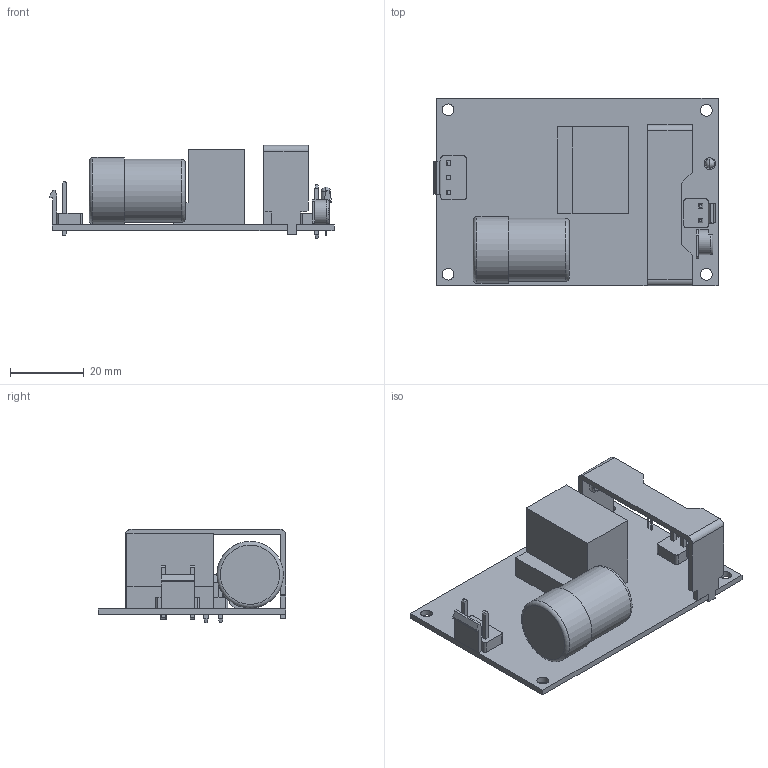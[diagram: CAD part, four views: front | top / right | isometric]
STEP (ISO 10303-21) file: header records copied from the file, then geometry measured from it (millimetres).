
FILE_DESCRIPTION((''),'2;1');
FILE_NAME('W:\mechanical\機構工程圖\3D圖檔\3D Outline-2020\已完成待審核\EPS-25,35.stp','2020-06-04T14:25:28',('shirley'),(''),'Autodesk Inventor 2010','Autodesk Inventor 2010','');
FILE_SCHEMA(('AUTOMOTIVE_DESIGN { 1 0 10303 214 1 1 1 1 }'));
Length unit declared in the file: millimetre
Products named in the file (16): EPS-25; PCB; JS-1120-02; PinVH; B2P-body blue; JS-1120-03N2; CN1; PIN_CPY; PIN_CPY_CPY; HS1; p2; LED; VR; T1; C5-1; C5
Assembly tree (16 placements, depth 3):
  EPS-25
    PCB
    JS-1120-02
      PinVH  x2
      B2P-body blue
    JS-1120-03N2
      CN1
      PIN_CPY
      PIN_CPY_CPY
    HS1
      p2
    LED
    VR
    T1
    C5-1
    C5
Bounding box: 76.84 x 50.8 x 25.2 mm (x, y, z)
Volume: 22384 mm3; surface area: 17406.1 mm2
Topology: 14 solids, 14 shells, 221 faces, 670 edges, 605 vertices
Faces by surface type: plane 175, cylinder 24, bspline 16, torus 6
Full cylindrical faces by diameter (mm): 2.5 x1, 2.65 x1, 3.11 x1, 3.2 x4, 4.27 x1, 6.747 x1, 17 x2, 18 x1
Entity records: 9213 total; most frequent: CARTESIAN_POINT 2714, DIRECTION 1128, ORIENTED_EDGE 982, VECTOR 510, LINE 510, EDGE_CURVE 491, VERTEX_POINT 334, AXIS2_PLACEMENT_3D 309
